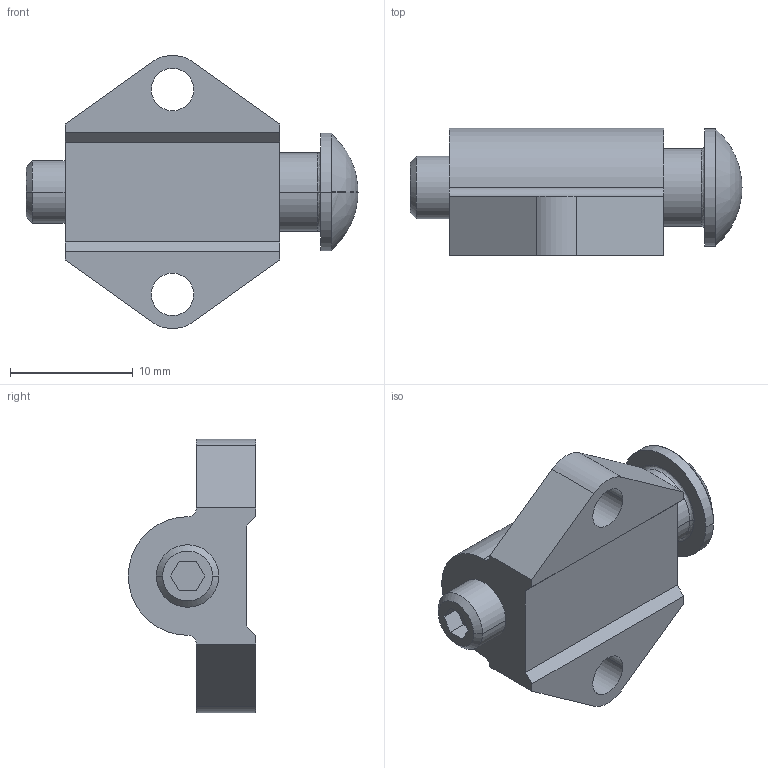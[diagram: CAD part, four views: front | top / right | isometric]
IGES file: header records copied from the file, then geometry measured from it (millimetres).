
Start section:  PTC IGES file: ss88-3d.igs
Global section: file name: ss88-3d.igs; native system: Pro/ENGINEER by Parametric Technology Corporation; preprocessor: 2002350; author: chant; organization: Unknown; date: 061026.110349; units: inch
Bounding box: 27 x 10.36 x 22.23 mm (x, y, z)
Surface area: 1948.5 mm2 (no closed solid volume)
Topology: 0 solids, 0 shells, 54 faces, 355 edges, 439 vertices
Faces by surface type: revolution 29, bspline 25
